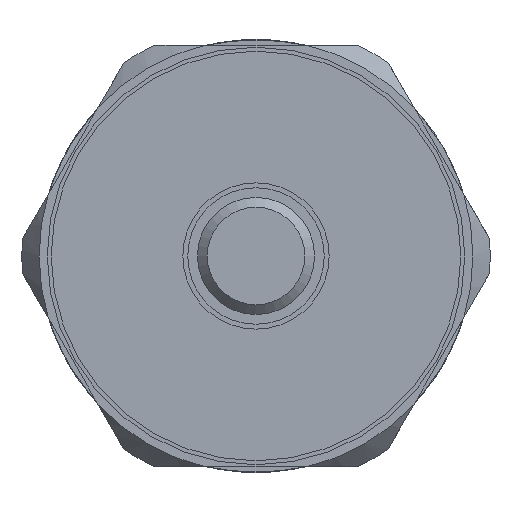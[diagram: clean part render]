
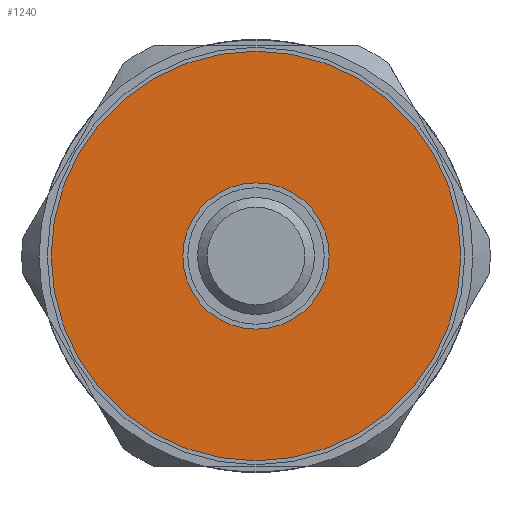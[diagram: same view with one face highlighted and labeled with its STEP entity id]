
A CAD part, left-side view. The second image highlights one B-rep face of the part: STEP entity #1240.
In plain terms, the highlighted planar face has unit normal (-1, 0, 0).
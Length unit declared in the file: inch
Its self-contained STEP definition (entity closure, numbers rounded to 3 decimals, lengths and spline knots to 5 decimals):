
#66=FACE_BOUND('',#210,.T.);
#94=PLANE('',#1365);
#139=FACE_OUTER_BOUND('',#209,.T.);
#209=EDGE_LOOP('',(#933,#934));
#210=EDGE_LOOP('',(#935,#936));
#362=CIRCLE('',#1310,0.14764);
#363=CIRCLE('',#1311,0.14764);
#392=CIRCLE('',#1366,0.41339);
#393=CIRCLE('',#1367,0.41339);
#470=VERTEX_POINT('',#1889);
#471=VERTEX_POINT('',#1890);
#524=VERTEX_POINT('',#2098);
#525=VERTEX_POINT('',#2099);
#600=EDGE_CURVE('',#470,#471,#362,.T.);
#601=EDGE_CURVE('',#471,#470,#363,.T.);
#681=EDGE_CURVE('',#524,#525,#392,.T.);
#682=EDGE_CURVE('',#525,#524,#393,.T.);
#933=ORIENTED_EDGE('',*,*,#681,.T.);
#934=ORIENTED_EDGE('',*,*,#682,.T.);
#935=ORIENTED_EDGE('',*,*,#600,.T.);
#936=ORIENTED_EDGE('',*,*,#601,.T.);
#1240=ADVANCED_FACE('',(#139,#66),#94,.T.);
#1310=AXIS2_PLACEMENT_3D('',#1891,#1495,#1496);
#1311=AXIS2_PLACEMENT_3D('',#1892,#1497,#1498);
#1365=AXIS2_PLACEMENT_3D('',#2097,#1632,#1633);
#1366=AXIS2_PLACEMENT_3D('',#2100,#1634,#1635);
#1367=AXIS2_PLACEMENT_3D('',#2101,#1636,#1637);
#1495=DIRECTION('center_axis',(1.,0.,0.));
#1496=DIRECTION('ref_axis',(0.,0.866,-0.5));
#1497=DIRECTION('center_axis',(1.,0.,0.));
#1498=DIRECTION('ref_axis',(0.,0.866,-0.5));
#1632=DIRECTION('center_axis',(-1.,0.,0.));
#1633=DIRECTION('ref_axis',(0.,0.866,-0.5));
#1634=DIRECTION('center_axis',(-1.,0.,0.));
#1635=DIRECTION('ref_axis',(0.,0.866,-0.5));
#1636=DIRECTION('center_axis',(-1.,0.,0.));
#1637=DIRECTION('ref_axis',(0.,0.866,-0.5));
#1889=CARTESIAN_POINT('',(-2.25408,0.22916,-0.41816));
#1890=CARTESIAN_POINT('',(-2.25408,-0.02656,-0.27052));
#1891=CARTESIAN_POINT('Origin',(-2.25408,0.1013,-0.34434));
#1892=CARTESIAN_POINT('Origin',(-2.25408,0.1013,-0.34434));
#2097=CARTESIAN_POINT('Origin',(-2.25408,0.1013,-0.34434));
#2098=CARTESIAN_POINT('',(-2.25408,0.4593,-0.55103));
#2099=CARTESIAN_POINT('',(-2.25408,-0.2567,-0.13765));
#2100=CARTESIAN_POINT('Origin',(-2.25408,0.1013,-0.34434));
#2101=CARTESIAN_POINT('Origin',(-2.25408,0.1013,-0.34434));
